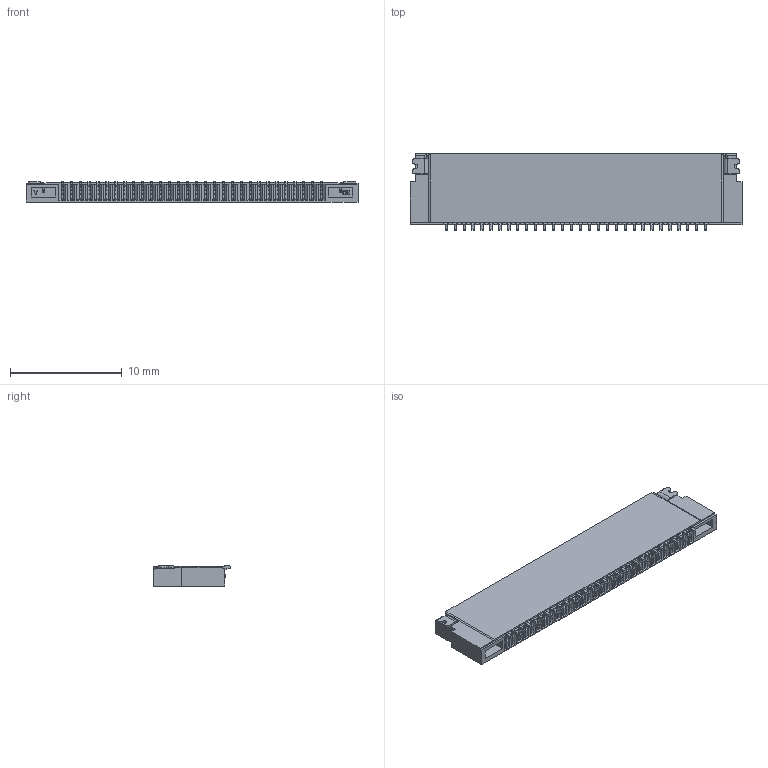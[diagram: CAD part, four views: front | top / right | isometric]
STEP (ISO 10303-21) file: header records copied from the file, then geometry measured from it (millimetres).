
FILE_DESCRIPTION (( 'STEP AP203' ), '1' );
FILE_NAME ('GT-F0803SR18-30S0101.STEP', '2025-05-21T10:24:19', ( '' ), ( '' ), 'SwSTEP 2.0', 'SolidWorks 2020', '' );
FILE_SCHEMA (( 'CONFIG_CONTROL_DESIGN' ));
Products named in the file (1): GT-F0803SR18-30S0101
Bounding box: 29.68 x 6.85 x 1.8 mm (x, y, z)
Volume: 239.7 mm3; surface area: 841.5 mm2
Topology: 1 solids, 1 shells, 2039 faces, 5990 edges, 3974 vertices
Faces by surface type: plane 1466, cylinder 502, bspline 71
Entity records: 70991 total; most frequent: CARTESIAN_POINT 16011, ORIENTED_EDGE 11980, DIRECTION 10794, EDGE_CURVE 5990, LINE 4840, VECTOR 4840, VERTEX_POINT 3974, AXIS2_PLACEMENT_3D 2977
